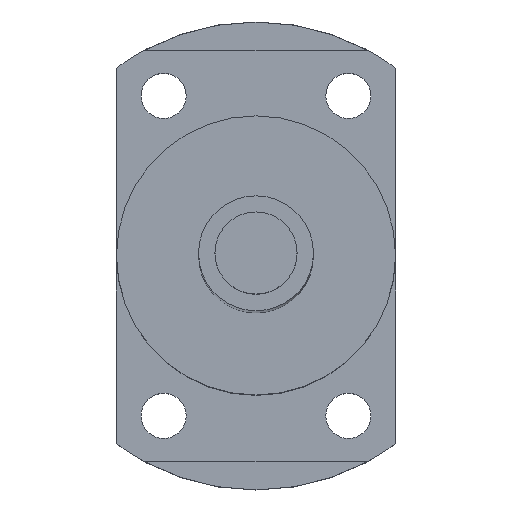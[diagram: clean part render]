
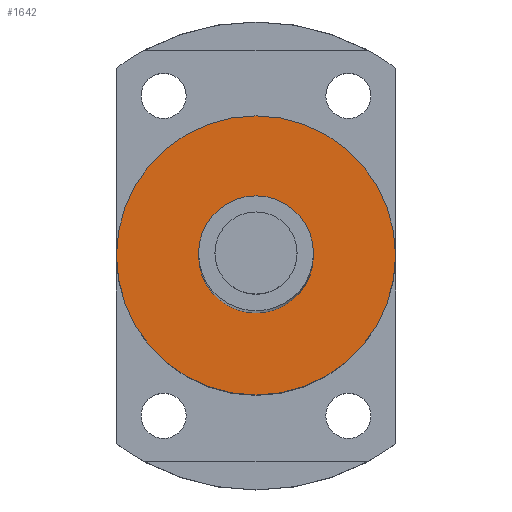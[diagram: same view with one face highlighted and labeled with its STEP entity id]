
A CAD part, top view. The second image highlights one B-rep face of the part: STEP entity #1642.
In plain terms, the highlighted planar face has unit normal (0, 0, 1).
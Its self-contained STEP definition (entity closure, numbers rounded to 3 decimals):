
#507=CARTESIAN_POINT('',(0.,0.,249.5));
#508=DIRECTION('',(0.,0.,1.));
#509=DIRECTION('',(1.,0.,0.));
#510=AXIS2_PLACEMENT_3D('',#507,#508,#509);
#512=CARTESIAN_POINT('',(0.,0.,249.5));
#513=DIRECTION('',(0.,0.,1.));
#514=DIRECTION('',(-1.,0.,0.));
#515=AXIS2_PLACEMENT_3D('',#512,#513,#514);
#517=CARTESIAN_POINT('',(0.,0.,249.5));
#518=DIRECTION('',(0.,0.,1.));
#519=DIRECTION('',(1.,0.,0.));
#520=AXIS2_PLACEMENT_3D('',#517,#518,#519);
#522=CARTESIAN_POINT('',(0.,0.,249.5));
#523=DIRECTION('',(0.,0.,1.));
#524=DIRECTION('',(-1.,0.,0.));
#525=AXIS2_PLACEMENT_3D('',#522,#523,#524);
#749=CARTESIAN_POINT('',(17.,0.,249.5));
#750=CARTESIAN_POINT('',(-17.,0.,249.5));
#751=VERTEX_POINT('',#749);
#752=VERTEX_POINT('',#750);
#761=CARTESIAN_POINT('',(7.,0.,249.5));
#762=CARTESIAN_POINT('',(-7.,0.,249.5));
#763=VERTEX_POINT('',#761);
#764=VERTEX_POINT('',#762);
#1627=CARTESIAN_POINT('',(0.,0.,249.5));
#1628=DIRECTION('',(0.,0.,1.));
#1629=DIRECTION('',(1.,0.,0.));
#1630=AXIS2_PLACEMENT_3D('',#1627,#1628,#1629);
#1631=PLANE('',#1630);
#1632=ORIENTED_EDGE('',*,*,#1607,.F.);
#1633=ORIENTED_EDGE('',*,*,#1621,.F.);
#1634=EDGE_LOOP('',(#1632,#1633));
#1635=FACE_OUTER_BOUND('',#1634,.F.);
#1637=ORIENTED_EDGE('',*,*,#1636,.T.);
#1639=ORIENTED_EDGE('',*,*,#1638,.T.);
#1640=EDGE_LOOP('',(#1637,#1639));
#1641=FACE_BOUND('',#1640,.F.);
#1642=ADVANCED_FACE('',(#1635,#1641),#1631,.T.);
#511=CIRCLE('',#510,17.);
#516=CIRCLE('',#515,17.);
#521=CIRCLE('',#520,7.);
#526=CIRCLE('',#525,7.);
#1607=EDGE_CURVE('',#751,#752,#511,.T.);
#1621=EDGE_CURVE('',#752,#751,#516,.T.);
#1636=EDGE_CURVE('',#763,#764,#521,.T.);
#1638=EDGE_CURVE('',#764,#763,#526,.T.);
